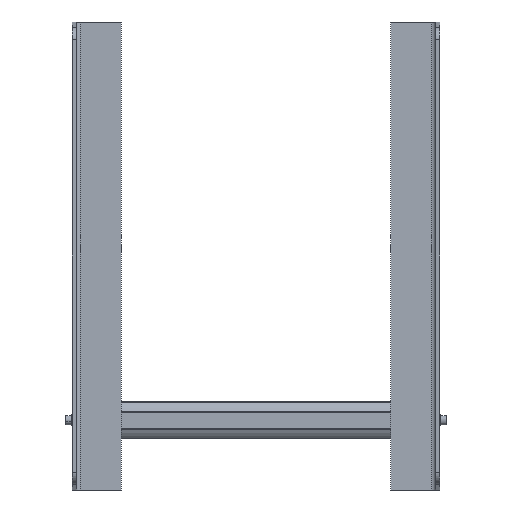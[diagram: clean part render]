
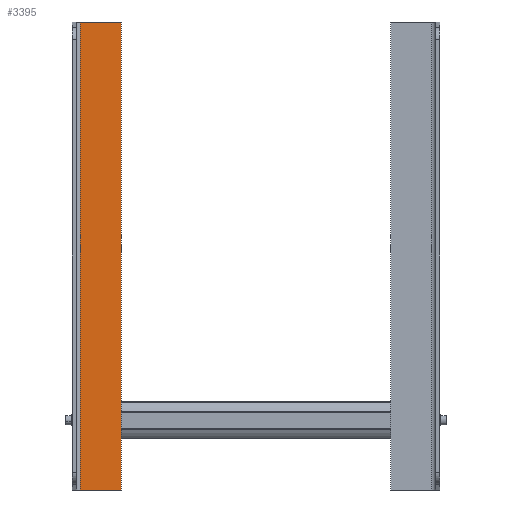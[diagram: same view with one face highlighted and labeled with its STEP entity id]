
A CAD part, front view. The second image highlights one B-rep face of the part: STEP entity #3395.
In plain terms, the highlighted planar face has unit normal (0, -1, 0).
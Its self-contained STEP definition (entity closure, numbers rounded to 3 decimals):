
#387 = CARTESIAN_POINT ( 'NONE',  ( -361.95, -3.175, -12.7 ) ) ;
#741 = VECTOR ( 'NONE', #1760, 1000. ) ;
#827 = LINE ( 'NONE', #6647, #741 ) ;
#1760 = DIRECTION ( 'NONE',  ( -1., 0., 0. ) ) ;
#2010 = CARTESIAN_POINT ( 'NONE',  ( 361.95, -3.175, -76.2 ) ) ;
#2372 = EDGE_CURVE ( 'NONE', #10777, #6626, #6488, .T. ) ;
#2411 = ORIENTED_EDGE ( 'NONE', *, *, #2372, .F. ) ;
#3227 = EDGE_LOOP ( 'NONE', ( #4993, #9462, #7272, #2411 ) ) ;
#3395 = ADVANCED_FACE ( 'NONE', ( #6655 ), #5622, .F. ) ;
#3563 = AXIS2_PLACEMENT_3D ( 'NONE', #6785, #11595, #10696 ) ;
#3600 = VECTOR ( 'NONE', #11703, 1000. ) ;
#3708 = LINE ( 'NONE', #4734, #5494 ) ;
#4137 = CARTESIAN_POINT ( 'NONE',  ( 361.95, -3.175, -12.7 ) ) ;
#4491 = CARTESIAN_POINT ( 'NONE',  ( -361.95, -3.175, -76.2 ) ) ;
#4734 = CARTESIAN_POINT ( 'NONE',  ( -361.95, -3.175, -12.7 ) ) ;
#4993 = ORIENTED_EDGE ( 'NONE', *, *, #12102, .T. ) ;
#5311 = CARTESIAN_POINT ( 'NONE',  ( 361.95, -3.175, -76.2 ) ) ;
#5494 = VECTOR ( 'NONE', #8652, 1000. ) ;
#5622 = PLANE ( 'NONE',  #3563 ) ;
#5931 = LINE ( 'NONE', #2010, #3600 ) ;
#6488 = LINE ( 'NONE', #9495, #11956 ) ;
#6626 = VERTEX_POINT ( 'NONE', #5311 ) ;
#6647 = CARTESIAN_POINT ( 'NONE',  ( 361.95, -3.175, -12.7 ) ) ;
#6655 = FACE_OUTER_BOUND ( 'NONE', #3227, .T. ) ;
#6785 = CARTESIAN_POINT ( 'NONE',  ( 361.95, -3.175, -12.7 ) ) ;
#7146 = EDGE_CURVE ( 'NONE', #6626, #7308, #5931, .T. ) ;
#7272 = ORIENTED_EDGE ( 'NONE', *, *, #7146, .F. ) ;
#7308 = VERTEX_POINT ( 'NONE', #4491 ) ;
#7457 = DIRECTION ( 'NONE',  ( 0., 0., -1. ) ) ;
#8652 = DIRECTION ( 'NONE',  ( 0., 0., -1. ) ) ;
#9462 = ORIENTED_EDGE ( 'NONE', *, *, #10218, .T. ) ;
#9495 = CARTESIAN_POINT ( 'NONE',  ( 361.95, -3.175, -12.7 ) ) ;
#10218 = EDGE_CURVE ( 'NONE', #10567, #7308, #3708, .T. ) ;
#10567 = VERTEX_POINT ( 'NONE', #387 ) ;
#10696 = DIRECTION ( 'NONE',  ( 0., 0., 1. ) ) ;
#10777 = VERTEX_POINT ( 'NONE', #4137 ) ;
#11595 = DIRECTION ( 'NONE',  ( 0., 1., 0. ) ) ;
#11703 = DIRECTION ( 'NONE',  ( -1., 0., 0. ) ) ;
#11956 = VECTOR ( 'NONE', #7457, 1000. ) ;
#12102 = EDGE_CURVE ( 'NONE', #10777, #10567, #827, .T. ) ;
